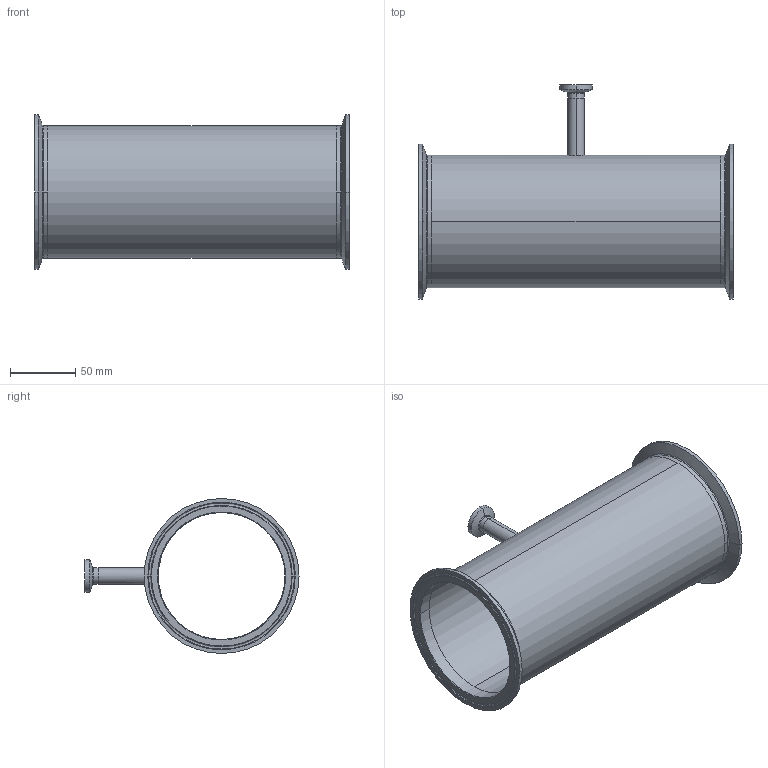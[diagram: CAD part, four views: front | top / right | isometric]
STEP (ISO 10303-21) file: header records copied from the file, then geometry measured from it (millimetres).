
FILE_DESCRIPTION (( 'STEP AP214' ), '1' );
FILE_NAME ('TEG7R6L4.0x.5-...STEP', '2016-05-24T07:21:19', ( 'eran' ), ( '' ), 'SwSTEP 2.0', 'SolidWorks 2016', '' );
FILE_SCHEMA (( 'AUTOMOTIVE_DESIGN' ));
Length unit declared in the file: millimetre
Products named in the file (1): TEG7R6L4.0x.5-..
Bounding box: 241.4 x 164.26 x 118.92 mm (x, y, z)
Volume: 188864.2 mm3; surface area: 170428 mm2
Topology: 4 solids, 4 shells, 84 faces, 198 edges, 126 vertices
Faces by surface type: cylinder 28, bspline 28, cone 16, plane 12
Entity records: 4059 total; most frequent: CARTESIAN_POINT 2075, DIRECTION 426, ORIENTED_EDGE 396, EDGE_CURVE 198, AXIS2_PLACEMENT_3D 191, CIRCLE 134, VERTEX_POINT 126, EDGE_LOOP 98
